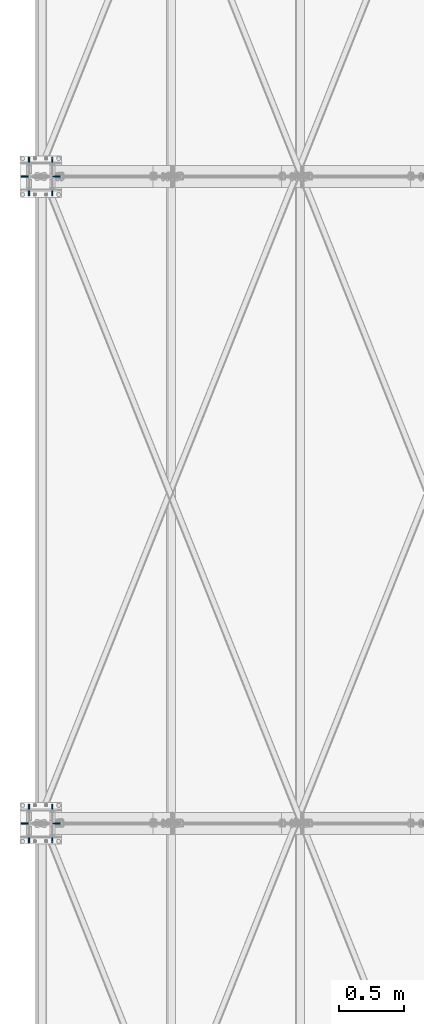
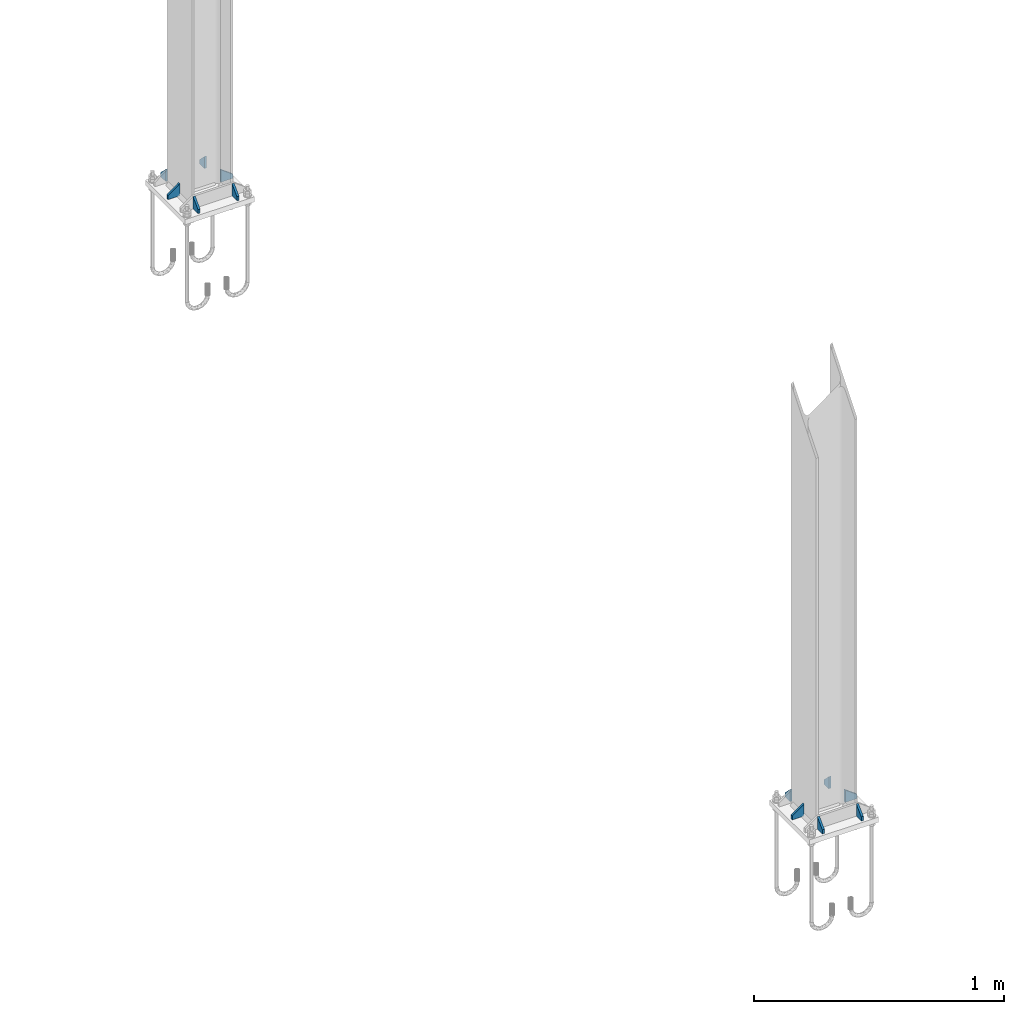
# One storey, part 13 of 251: 12 plates.
"""IFC4 building model written with IfcOpenShell, lengths in metres."""

from ifc_helpers import new_model, si_unit, frame, origin_with_axes, place, context, project, spatial, polyline, outline, extrude, type_object, element, save


model = new_model("IFC4")

# Units and contexts
model_context = context("Model", 3, precision=1e-05, world=origin_with_axes())
ifc_project = project(units=[si_unit("LENGTHUNIT", "METRE"), si_unit("AREAUNIT", "SQUARE_METRE"), si_unit("VOLUMEUNIT", "CUBIC_METRE"), si_unit("MASSUNIT", "GRAM", prefix="KILO"), si_unit("TIMEUNIT", "SECOND"), si_unit("PLANEANGLEUNIT", "RADIAN"), si_unit("SOLIDANGLEUNIT", "STERADIAN"), si_unit("THERMODYNAMICTEMPERATUREUNIT", "DEGREE_CELSIUS")], contexts=[model_context])

# Site, building, storey
placement_1 = place(None, origin_with_axes())
site = spatial("IfcSite", under=ifc_project, at=placement_1, Name="Italia", CompositionType="ELEMENT")
building = spatial("IfcBuilding", under=site, at=placement_1, Name="Deposito", CompositionType="ELEMENT")
storey = spatial("IfcBuildingStorey", under=building, at=placement_1, Name="Storey 0", CompositionType="ELEMENT", Elevation=0.0)

# Plates
plate_type_1 = type_object("IfcPlateType", Name="Collegamenti 0014_-001 0016_-054 0018_-056 0032_-002 0033_-058 0047_-003 0048_-060 0062_-004 0063_-005 0079_-008", PredefinedType="SHEET")
placement_2 = place(placement_1, origin_with_axes())
plate_1_placement = place(placement_2, origin_with_axes())
element("IfcPlate", 1, at=plate_1_placement, inside=storey, type_object=plate_type_1, Name="Collegamenti 0014_-001 0016_-054 0018_-056 0032_-002 0033_-058 0047_-003 0048_-060 0062_-004 0063_-005 0079_-008", context=model_context, shape_type="SweptSolid", body=[
    extrude(outline(polyline([(0.0, 0.0), (0.0, -0.02), (-0.0550003, -0.02), (-0.0550003, 0.04), (0.0, 0.0)])), frame((5.9, 9.995, 0.095), z_axis=(0.0, 1.0, 0.0), x_axis=(-1.0, 0.0, 0.0)), (0.0, 0.0, 1.0), 0.0100002),
])
plate_type_2 = type_object("IfcPlateType", Name="Collegamenti 0014_-001 0016_-054 0018_-056 0032_-002 0033_-058 0047_-003 0048_-060 0062_-004 0063_-005 0079_-008", PredefinedType="SHEET")
plate_2_placement = place(placement_2, origin_with_axes())
element("IfcPlate", 2, at=plate_2_placement, inside=storey, type_object=plate_type_2, Name="Collegamenti 0014_-001 0016_-054 0018_-056 0032_-002 0033_-058 0047_-003 0048_-060 0062_-004 0063_-005 0079_-008", context=model_context, shape_type="SweptSolid", body=[
    extrude(outline(polyline([(0.0, 0.0), (0.0, 0.02), (0.0550003, 0.06), (0.0550003, 0.0), (0.0, 0.0)])), frame((6.2, 9.995, 0.075), z_axis=(0.0, 1.0, 0.0), x_axis=(-1.0, 0.0, 0.0)), (0.0, 0.0, 1.0), 0.0100002),
])
plate_type_3 = type_object("IfcPlateType", Name="Collegamenti 0014_-001 0016_-054 0018_-056 0032_-002 0033_-058 0047_-003 0048_-060 0062_-004 0063_-005 0079_-008", PredefinedType="SHEET")
plate_3_placement = place(placement_2, origin_with_axes())
element("IfcPlate", 3, at=plate_3_placement, inside=storey, type_object=plate_type_3, Name="Collegamenti 0014_-001 0016_-054 0018_-056 0032_-002 0033_-058 0047_-003 0048_-060 0062_-004 0063_-005 0079_-008", context=model_context, shape_type="SweptSolid", body=[
    extrude(outline(polyline([(0.0, 0.0), (0.0, -0.02), (-0.04, -0.02), (-0.04, 0.04), (0.0, 0.0)])), frame((5.955, 10.15, 0.095), z_axis=(1.0, 0.0, 0.0), x_axis=(0.0, 1.0, 0.0)), (0.0, 0.0, 1.0), 0.0100002),
])
plate_type_4 = type_object("IfcPlateType", Name="Collegamenti 0014_-001 0016_-054 0018_-056 0032_-002 0033_-058 0047_-003 0048_-060 0062_-004 0063_-005 0079_-008", PredefinedType="SHEET")
plate_4_placement = place(placement_2, origin_with_axes())
element("IfcPlate", 4, at=plate_4_placement, inside=storey, type_object=plate_type_4, Name="Collegamenti 0014_-001 0016_-054 0018_-056 0032_-002 0033_-058 0047_-003 0048_-060 0062_-004 0063_-005 0079_-008", context=model_context, shape_type="SweptSolid", body=[
    extrude(outline(polyline([(0.0, 0.0), (0.0, 0.02), (0.04, 0.06), (0.04, 0.0), (0.0, 0.0)])), frame((5.955, 9.85, 0.075), z_axis=(1.0, 0.0, 0.0), x_axis=(0.0, 1.0, 0.0)), (0.0, 0.0, 1.0), 0.0100002),
])
plate_type_5 = type_object("IfcPlateType", Name="Collegamenti 0014_-001 0016_-054 0018_-056 0032_-002 0033_-058 0047_-003 0048_-060 0062_-004 0063_-005 0079_-008", PredefinedType="SHEET")
plate_5_placement = place(placement_2, origin_with_axes())
element("IfcPlate", 5, at=plate_5_placement, inside=storey, type_object=plate_type_5, Name="Collegamenti 0014_-001 0016_-054 0018_-056 0032_-002 0033_-058 0047_-003 0048_-060 0062_-004 0063_-005 0079_-008", context=model_context, shape_type="SweptSolid", body=[
    extrude(outline(polyline([(0.0, 0.0), (0.0, 0.02), (0.04, 0.06), (0.04, 0.0), (0.0, 0.0)])), frame((6.145, 10.15, 0.075), z_axis=(-1.0, 0.0, 0.0), x_axis=(0.0, -1.0, 0.0)), (0.0, 0.0, 1.0), 0.0100002),
])
plate_type_6 = type_object("IfcPlateType", Name="Collegamenti 0014_-001 0016_-054 0018_-056 0032_-002 0033_-058 0047_-003 0048_-060 0062_-004 0063_-005 0079_-008", PredefinedType="SHEET")
plate_6_placement = place(placement_2, origin_with_axes())
element("IfcPlate", 6, at=plate_6_placement, inside=storey, type_object=plate_type_6, Name="Collegamenti 0014_-001 0016_-054 0018_-056 0032_-002 0033_-058 0047_-003 0048_-060 0062_-004 0063_-005 0079_-008", context=model_context, shape_type="SweptSolid", body=[
    extrude(outline(polyline([(0.0, 0.0), (0.0, -0.02), (-0.04, -0.02), (-0.04, 0.04), (0.0, 0.0)])), frame((6.145, 9.85, 0.095), z_axis=(-1.0, 0.0, 0.0), x_axis=(0.0, -1.0, 0.0)), (0.0, 0.0, 1.0), 0.0100002),
])
plate_type_7 = type_object("IfcPlateType", Name="Collegamenti 0014_-001 0016_-054 0018_-056 0032_-002 0033_-058 0047_-003 0048_-060 0062_-004 0063_-005 0079_-008", PredefinedType="SHEET")
plate_7_placement = place(placement_2, origin_with_axes())
element("IfcPlate", 7, at=plate_7_placement, inside=storey, type_object=plate_type_7, Name="Collegamenti 0014_-001 0016_-054 0018_-056 0032_-002 0033_-058 0047_-003 0048_-060 0062_-004 0063_-005 0079_-008", context=model_context, shape_type="SweptSolid", body=[
    extrude(outline(polyline([(0.0, 0.0), (0.0, -0.02), (-0.0550003, -0.02), (-0.0550003, 0.04), (0.0, 0.0)])), frame((5.9, 14.995, 0.095), z_axis=(0.0, 1.0, 0.0), x_axis=(-1.0, 0.0, 0.0)), (0.0, 0.0, 1.0), 0.0100002),
])
plate_type_8 = type_object("IfcPlateType", Name="Collegamenti 0014_-001 0016_-054 0018_-056 0032_-002 0033_-058 0047_-003 0048_-060 0062_-004 0063_-005 0079_-008", PredefinedType="SHEET")
plate_8_placement = place(placement_2, origin_with_axes())
element("IfcPlate", 8, at=plate_8_placement, inside=storey, type_object=plate_type_8, Name="Collegamenti 0014_-001 0016_-054 0018_-056 0032_-002 0033_-058 0047_-003 0048_-060 0062_-004 0063_-005 0079_-008", context=model_context, shape_type="SweptSolid", body=[
    extrude(outline(polyline([(0.0, 0.0), (0.0, 0.02), (0.0550003, 0.06), (0.0550003, 0.0), (0.0, 0.0)])), frame((6.2, 14.995, 0.075), z_axis=(0.0, 1.0, 0.0), x_axis=(-1.0, 0.0, 0.0)), (0.0, 0.0, 1.0), 0.0100002),
])
plate_type_9 = type_object("IfcPlateType", Name="Collegamenti 0014_-001 0016_-054 0018_-056 0032_-002 0033_-058 0047_-003 0048_-060 0062_-004 0063_-005 0079_-008", PredefinedType="SHEET")
plate_9_placement = place(placement_2, origin_with_axes())
element("IfcPlate", 9, at=plate_9_placement, inside=storey, type_object=plate_type_9, Name="Collegamenti 0014_-001 0016_-054 0018_-056 0032_-002 0033_-058 0047_-003 0048_-060 0062_-004 0063_-005 0079_-008", context=model_context, shape_type="SweptSolid", body=[
    extrude(outline(polyline([(0.0, 0.0), (0.0, -0.02), (-0.04, -0.02), (-0.04, 0.04), (0.0, 0.0)])), frame((5.955, 15.15, 0.095), z_axis=(1.0, 0.0, 0.0), x_axis=(0.0, 1.0, 0.0)), (0.0, 0.0, 1.0), 0.0100002),
])
plate_type_10 = type_object("IfcPlateType", Name="Collegamenti 0014_-001 0016_-054 0018_-056 0032_-002 0033_-058 0047_-003 0048_-060 0062_-004 0063_-005 0079_-008", PredefinedType="SHEET")
plate_10_placement = place(placement_2, origin_with_axes())
element("IfcPlate", 10, at=plate_10_placement, inside=storey, type_object=plate_type_10, Name="Collegamenti 0014_-001 0016_-054 0018_-056 0032_-002 0033_-058 0047_-003 0048_-060 0062_-004 0063_-005 0079_-008", context=model_context, shape_type="SweptSolid", body=[
    extrude(outline(polyline([(0.0, 0.0), (0.0, 0.02), (0.04, 0.06), (0.04, 0.0), (0.0, 0.0)])), frame((5.955, 14.85, 0.075), z_axis=(1.0, 0.0, 0.0), x_axis=(0.0, 1.0, 0.0)), (0.0, 0.0, 1.0), 0.0100002),
])
plate_type_11 = type_object("IfcPlateType", Name="Collegamenti 0014_-001 0016_-054 0018_-056 0032_-002 0033_-058 0047_-003 0048_-060 0062_-004 0063_-005 0079_-008", PredefinedType="SHEET")
plate_11_placement = place(placement_2, origin_with_axes())
element("IfcPlate", 11, at=plate_11_placement, inside=storey, type_object=plate_type_11, Name="Collegamenti 0014_-001 0016_-054 0018_-056 0032_-002 0033_-058 0047_-003 0048_-060 0062_-004 0063_-005 0079_-008", context=model_context, shape_type="SweptSolid", body=[
    extrude(outline(polyline([(0.0, 0.0), (0.0, 0.02), (0.04, 0.06), (0.04, 0.0), (0.0, 0.0)])), frame((6.145, 15.15, 0.075), z_axis=(-1.0, 0.0, 0.0), x_axis=(0.0, -1.0, 0.0)), (0.0, 0.0, 1.0), 0.0100002),
])
plate_type_12 = type_object("IfcPlateType", Name="Collegamenti 0014_-001 0016_-054 0018_-056 0032_-002 0033_-058 0047_-003 0048_-060 0062_-004 0063_-005 0079_-008", PredefinedType="SHEET")
plate_12_placement = place(placement_2, origin_with_axes())
element("IfcPlate", 12, at=plate_12_placement, inside=storey, type_object=plate_type_12, Name="Collegamenti 0014_-001 0016_-054 0018_-056 0032_-002 0033_-058 0047_-003 0048_-060 0062_-004 0063_-005 0079_-008", context=model_context, shape_type="SweptSolid", body=[
    extrude(outline(polyline([(0.0, 0.0), (0.0, -0.02), (-0.04, -0.02), (-0.04, 0.04), (0.0, 0.0)])), frame((6.145, 14.85, 0.095), z_axis=(-1.0, 0.0, 0.0), x_axis=(0.0, -1.0, 0.0)), (0.0, 0.0, 1.0), 0.0100002),
])

save(model, "model.ifc")
